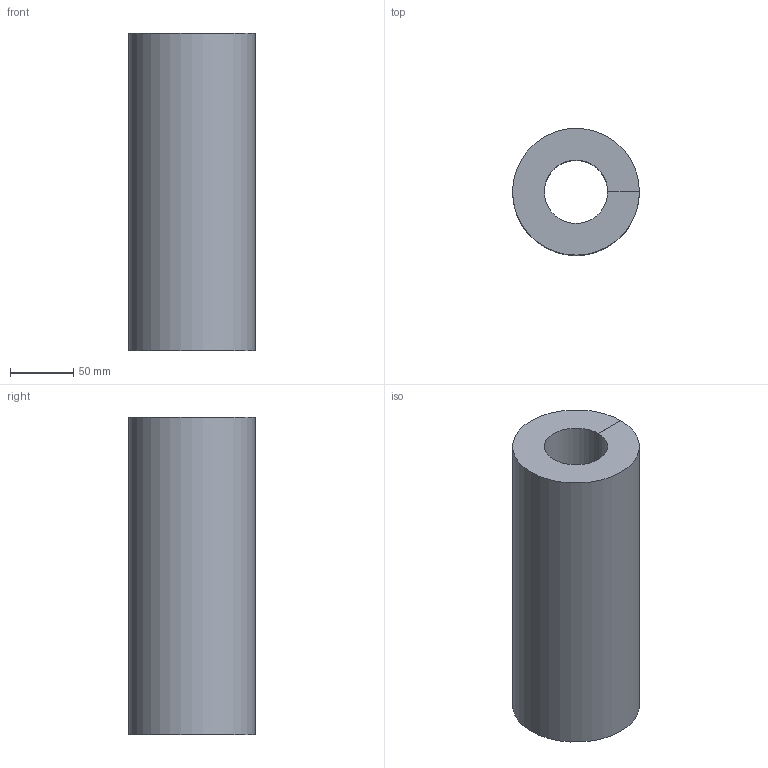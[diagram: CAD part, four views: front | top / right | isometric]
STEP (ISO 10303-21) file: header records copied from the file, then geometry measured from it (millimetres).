
FILE_DESCRIPTION(('FreeCAD Model'),'2;1');
FILE_NAME('Open CASCADE Shape Model','2026-01-11T11:15:38',(''),(''), 'Open CASCADE STEP processor 7.7','FreeCAD','Unknown');
FILE_SCHEMA(('AUTOMOTIVE_DESIGN { 1 0 10303 214 1 1 1 1 }'));
Length unit declared in the file: metre
Products named in the file (1): Body
Bounding box: 100 x 100 x 250 mm (x, y, z)
Volume: 1472212.5 mm3; surface area: 142054.7 mm2
Topology: 1 solids, 1 shells, 6 faces, 12 edges, 8 vertices
Faces by surface type: plane 4, cylinder 2
Entity records: 182 total; most frequent: DIRECTION 30, CARTESIAN_POINT 27, ORIENTED_EDGE 24, EDGE_CURVE 12, AXIS2_PLACEMENT_3D 11, VERTEX_POINT 8, LINE 8, VECTOR 8
